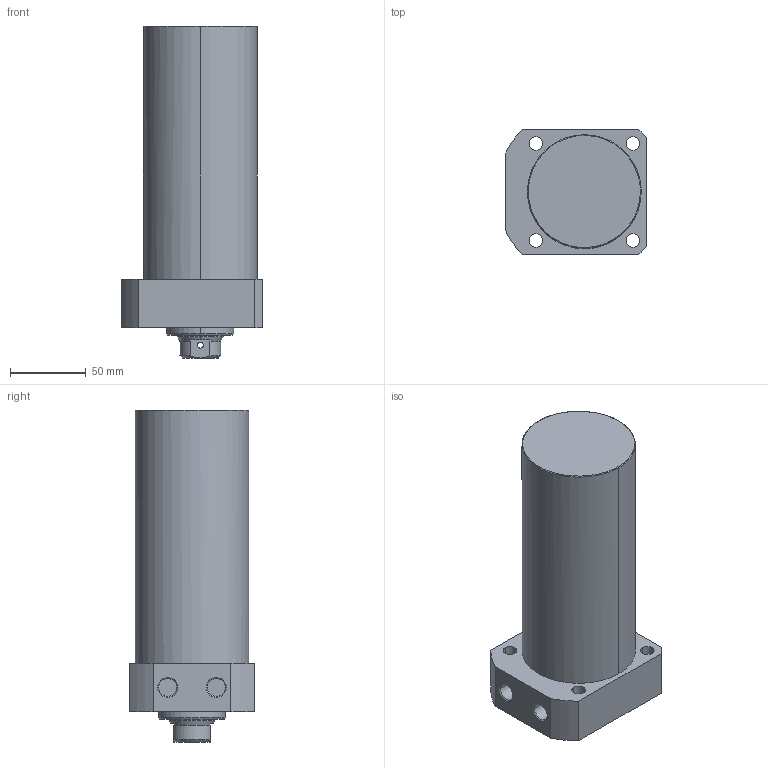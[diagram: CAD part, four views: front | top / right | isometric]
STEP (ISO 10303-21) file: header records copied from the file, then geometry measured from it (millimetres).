
FILE_DESCRIPTION((' '),'2;1');
FILE_NAME( 'TLLR-075CB-130.STEP.stp', '2025-10-24T16:35:09', (' '), ('--- Datakit www.datakit.com---'), ' Datakit CrossCadWare V2024.1 Dec 21 2023', 'Mastercam 2025', ' ');
FILE_SCHEMA(('AUTOMOTIVE_DESIGN { 1 0 10303 214 1 1 1 1 }'));
Length unit declared in the file: millimetre
Products named in the file (1): TLLR-075CB-130
Bounding box: 93 x 82 x 219 mm (x, y, z)
Volume: 972756.1 mm3; surface area: 73088.5 mm2
Topology: 1 solids, 1 shells, 67 faces, 197 edges, 136 vertices
Faces by surface type: cylinder 32, plane 19, cone 14, torus 2
Entity records: 3386 total; most frequent: CARTESIAN_POINT 1467, DIRECTION 426, ORIENTED_EDGE 390, EDGE_CURVE 195, AXIS2_PLACEMENT_3D 179, VERTEX_POINT 136, CIRCLE 111, EDGE_LOOP 85
